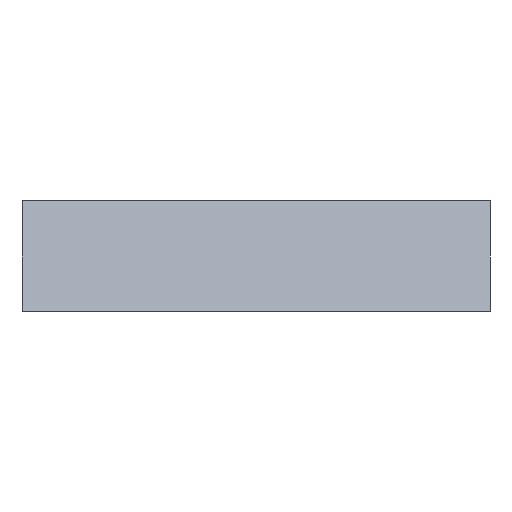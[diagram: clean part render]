
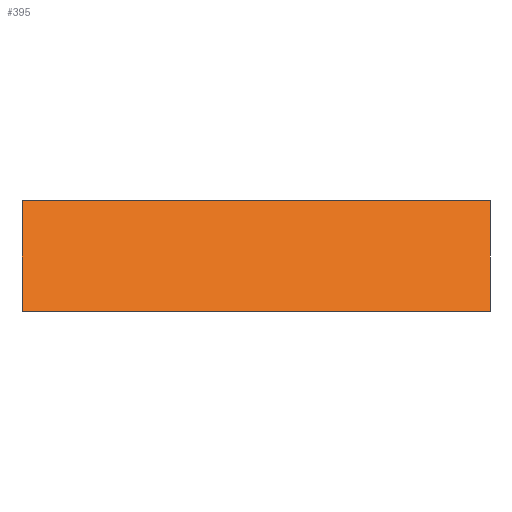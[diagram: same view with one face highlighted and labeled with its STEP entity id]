
A CAD part, left-side view. The second image highlights one B-rep face of the part: STEP entity #395.
In plain terms, the highlighted planar face has unit normal (-0.743, 0, 0.67).
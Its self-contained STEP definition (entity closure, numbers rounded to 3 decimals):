
#222=ORIENTED_EDGE('',*,*,#288,.T.);
#223=ORIENTED_EDGE('',*,*,#289,.T.);
#224=ORIENTED_EDGE('',*,*,#290,.T.);
#225=ORIENTED_EDGE('',*,*,#282,.T.);
#252=VECTOR('',#338,1.);
#255=VECTOR('',#347,1.);
#256=VECTOR('',#348,1.);
#257=VECTOR('',#349,1.);
#260=LINE('',#412,#252);
#263=LINE('',#678,#255);
#264=LINE('',#680,#256);
#265=LINE('',#681,#257);
#268=VERTEX_POINT('',#410);
#269=VERTEX_POINT('',#411);
#274=VERTEX_POINT('',#677);
#275=VERTEX_POINT('',#679);
#282=EDGE_CURVE('',#268,#269,#260,.T.);
#288=EDGE_CURVE('',#269,#274,#263,.T.);
#289=EDGE_CURVE('',#274,#275,#264,.T.);
#290=EDGE_CURVE('',#275,#268,#265,.T.);
#303=EDGE_LOOP('',(#222,#223,#224,#225));
#321=FACE_BOUND('',#303,.T.);
#338=DIRECTION('',(0.,-42.4,0.));
#345=DIRECTION('',(-0.743,0.,0.67));
#346=DIRECTION('',(0.,0.743,0.));
#347=DIRECTION('',(9.018,0.,10.));
#348=DIRECTION('',(0.,42.4,0.));
#349=DIRECTION('',(-9.018,0.,-10.));
#377=AXIS2_PLACEMENT_3D('',#676,#345,#346);
#390=PLANE('',#377);
#395=ADVANCED_FACE('',(#321),#390,.T.);
#410=CARTESIAN_POINT('',(-757.988,21.2,-5.));
#411=CARTESIAN_POINT('',(-757.988,-21.2,-5.));
#412=CARTESIAN_POINT('',(-757.988,21.2,-5.));
#676=CARTESIAN_POINT('',(-525.004,21.2,253.358));
#677=CARTESIAN_POINT('',(-748.97,-21.2,5.));
#678=CARTESIAN_POINT('',(-757.988,-21.2,-5.));
#679=CARTESIAN_POINT('',(-748.97,21.2,5.));
#680=CARTESIAN_POINT('',(-748.97,-21.2,5.));
#681=CARTESIAN_POINT('',(-748.97,21.2,5.));
